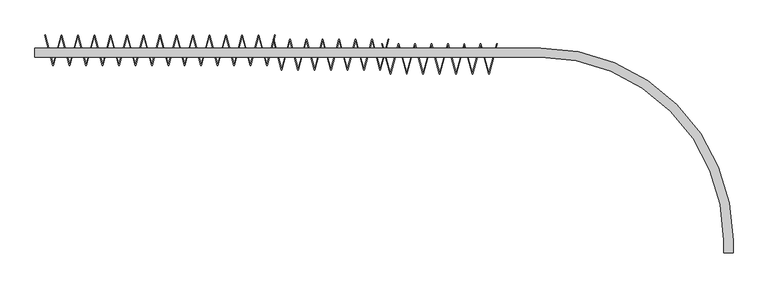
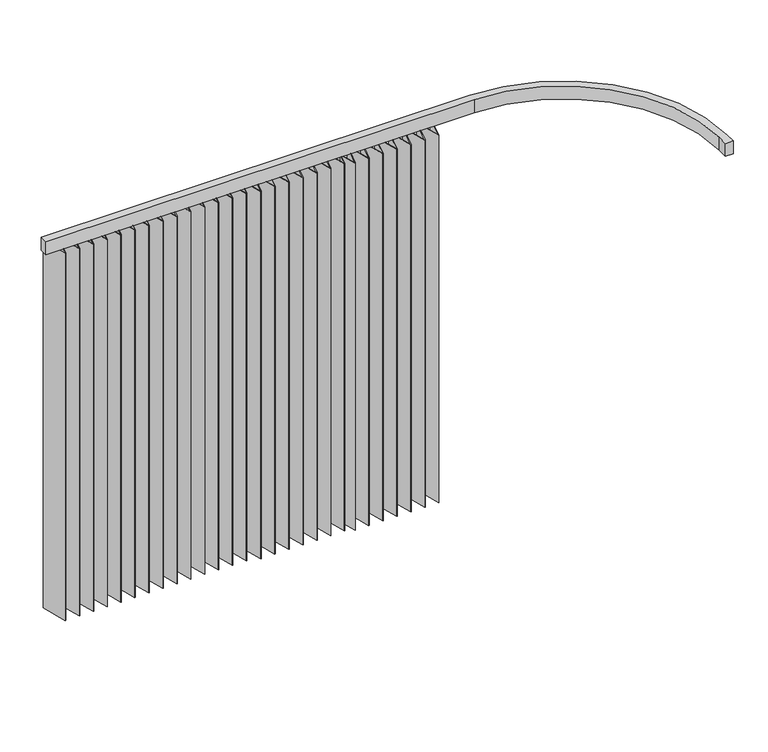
"""IFC4 building model written with IfcOpenShell, lengths in millimetres: furniture geometry, BIMHealth-Curtain_Bed-LOD2A-v1 : BHMS_Bed curtains."""

from ifc_helpers import new_model, si_unit, point, frame, frame_2d, origin, place, context, project, spatial, polyline, circle_curve, trimmed, segment, composite_curve, outline, extrude, source, transform, mapped, element, save


def furniture_a4beb444(model_context):
    return source(origin(), model_context, "Body", "SweptSolid", [
        extrude(outline(polyline([(130.945283, -76.2443007), (95.0822641, 57.5983079), (97.0141157, 58.115946), (131.9805592, -72.3805974), (166.8083019, 57.5983079), (168.8788542, 57.5983079), (203.7065969, -72.3805974), (238.5343396, 57.5983079), (240.604892, 57.5983079), (275.4326347, -72.3805974), (310.2603774, 57.5983079), (312.3309298, 57.5983079), (347.1586725, -72.3805974), (381.9864152, 57.5983079), (384.0569675, 57.5983079), (418.8847103, -72.3805974), (453.712453, 57.5983079), (455.7830053, 57.5983079), (490.610748, -72.3805974), (525.4384907, 57.5983079), (527.5090431, 57.5983079), (562.3367858, -72.3805974), (597.3032292, 58.115946), (599.2350809, 57.5983079), (563.372062, -76.2443007), (561.3015096, -76.2443007), (526.4737669, 53.7346046), (491.6460242, -76.2443007), (489.5754718, -76.2443007), (454.7477291, 53.7346046), (419.9199864, -76.2443007), (417.8494341, -76.2443007), (383.0216914, 53.7346046), (348.1939487, -76.2443007), (346.1233963, -76.2443007), (311.2956536, 53.7346046), (276.4679109, -76.2443007), (274.3973585, -76.2443007), (239.5696158, 53.7346046), (204.7418731, -76.2443007), (202.6713208, -76.2443007), (167.843578, 53.7346046), (133.0158353, -76.2443007), (130.945283, -76.2443007)])), frame((0.0, 0.0, 100.0), z_axis=(0.0, 0.0, 1.0), x_axis=(1.0, 0.0, 0.0)), (0.0, 0.0, 1.0), 2000.0),
        extrude(outline(polyline([(1128.1625419, -95.5463173), (1092.299523, 38.2962913), (1094.2313747, 38.8139294), (1129.1978181, -91.682614), (1164.0255608, 38.2962913), (1166.0961131, 38.2962913), (1200.9238559, -91.682614), (1235.7515986, 38.2962913), (1237.8221509, 38.2962913), (1272.6498936, -91.682614), (1307.4776363, 38.2962913), (1309.5481887, 38.2962913), (1344.3759314, -91.682614), (1379.2036741, 38.2962913), (1381.2742265, 38.2962913), (1416.1019692, -91.682614), (1450.9297119, 38.2962913), (1453.0002642, 38.2962913), (1487.8280069, -91.682614), (1522.6557497, 38.2962913), (1524.726302, 38.2962913), (1559.5540447, -91.682614), (1594.5204881, 38.8139294), (1596.4523398, 38.2962913), (1560.5893209, -95.5463173), (1558.5187685, -95.5463173), (1523.6910258, 34.432588), (1488.8632831, -95.5463173), (1486.7927308, -95.5463173), (1451.9649881, 34.432588), (1417.1372454, -95.5463173), (1415.066693, -95.5463173), (1380.2389503, 34.432588), (1345.4112076, -95.5463173), (1343.3406552, -95.5463173), (1308.5129125, 34.432588), (1273.6851698, -95.5463173), (1271.6146174, -95.5463173), (1236.7868747, 34.432588), (1201.959132, -95.5463173), (1199.8885797, -95.5463173), (1165.060837, 34.432588), (1130.2330943, -95.5463173), (1128.1625419, -95.5463173)])), frame((0.0, 0.0, 100.0), z_axis=(0.0, 0.0, 1.0), x_axis=(1.0, 0.0, 0.0)), (0.0, 0.0, 1.0), 2000.0),
        extrude(outline(polyline([(633.3005277, -76.2278008), (597.4375088, 57.6148078), (599.3693604, 58.1324459), (634.3358038, -72.3640975), (669.1635466, 57.6148078), (671.2340989, 57.6148078), (706.0618416, -72.3640975), (740.8895843, 57.6148078), (742.9601367, 57.6148078), (777.7878794, -72.3640975), (812.6156221, 57.6148078), (814.6861745, 57.6148078), (849.5139172, -72.3640975), (884.3416599, 57.6148078), (886.4122122, 57.6148078), (921.2399549, -72.3640975), (956.0676976, 57.6148078), (958.13825, 57.6148078), (992.9659927, -72.3640975), (1027.7937354, 57.6148078), (1029.8642878, 57.6148078), (1064.6920305, -72.3640975), (1099.6584739, 58.1324459), (1101.5903256, 57.6148078), (1065.7273067, -76.2278008), (1063.6567543, -76.2278008), (1028.8290116, 53.7511045), (994.0012689, -76.2278008), (991.9307165, -76.2278008), (957.1029738, 53.7511045), (922.2752311, -76.2278008), (920.2046788, -76.2278008), (885.3769361, 53.7511045), (850.5491933, -76.2278008), (848.478641, -76.2278008), (813.6508983, 53.7511045), (778.8231556, -76.2278008), (776.7526032, -76.2278008), (741.9248605, 53.7511045), (707.0971178, -76.2278008), (705.0265654, -76.2278008), (670.1988227, 53.7511045), (635.37108, -76.2278008), (633.3005277, -76.2278008)])), frame((0.0, 0.0, 100.0), z_axis=(0.0, 0.0, 1.0), x_axis=(1.0, 0.0, 0.0)), (0.0, 0.0, 1.0), 2000.0),
        extrude(outline(composite_curve([segment(polyline([(2260.0, -40.0), (52.0525168, -40.0), (52.0525168, 0.0), (2260.0, 0.0)]), True, "CONTINUOUS"), segment(trimmed(circle_curve(frame_2d((2260.0, -840.0)), 840.0), [point((2260.0, 0.0))], [point((3100.0, -840.0))], False, "CARTESIAN"), True, "CONTINUOUS"), segment(polyline([(3100.0, -840.0), (3100.0, -894.7276126), (3060.0, -894.7276126), (3060.0, -840.0)]), True, "CONTINUOUS"), segment(trimmed(circle_curve(frame_2d((2260.0, -840.0)), 800.0), [point((3060.0, -840.0))], [point((2260.0, -40.0))], True, "CARTESIAN"), True, "CONTINUOUS")], self_intersect=False)), frame((0.0, 0.0, 2100.0), z_axis=(0.0, 0.0, 1.0), x_axis=(1.0, 0.0, 0.0)), (0.0, 0.0, 1.0), 70.0),
        extrude(outline(polyline([(1602.5929369, -113.8426086), (1566.7299181, 20.0), (1568.6617697, 20.5176381), (1603.6282131, -109.9789053), (1638.4559558, 20.0), (1640.5265082, 20.0), (1675.3542509, -109.9789053), (1710.1819936, 20.0), (1712.252546, 20.0), (1747.0802887, -109.9789053), (1781.9080314, 20.0), (1783.9785837, 20.0), (1818.8063264, -109.9789053), (1853.6340692, 20.0), (1855.7046215, 20.0), (1890.5323642, -109.9789053), (1925.3601069, 20.0), (1927.4306593, 20.0), (1962.258402, -109.9789053), (1997.0861447, 20.0), (1999.1566971, 20.0), (2033.9844398, -109.9789053), (2068.9508832, 20.5176381), (2070.8827348, 20.0), (2035.0197159, -113.8426086), (2032.9491636, -113.8426086), (1998.1214209, 16.1362967), (1963.2936782, -113.8426086), (1961.2231258, -113.8426086), (1926.3953831, 16.1362967), (1891.5676404, -113.8426086), (1889.497088, -113.8426086), (1854.6693453, 16.1362967), (1819.8416026, -113.8426086), (1817.7710503, -113.8426086), (1782.9433076, 16.1362967), (1748.1155649, -113.8426086), (1746.0450125, -113.8426086), (1711.2172698, 16.1362967), (1676.3895271, -113.8426086), (1674.3189747, -113.8426086), (1639.491232, 16.1362967), (1604.6634893, -113.8426086), (1602.5929369, -113.8426086)])), frame((0.0, 0.0, 100.0), z_axis=(0.0, 0.0, 1.0), x_axis=(1.0, 0.0, 0.0)), (0.0, 0.0, 1.0), 2000.0),
    ])


if __name__ == "__main__":
    model = new_model("IFC4")
    model_context = context("Model", 3, world=origin())
    ifc_project = project(units=[si_unit("LENGTHUNIT", "METRE", prefix="MILLI")], contexts=[model_context])
    site = spatial("IfcSite", under=ifc_project)
    building = spatial("IfcBuilding", under=site)
    placement = place(None, origin())
    furniture_shape = furniture_a4beb444(model_context)
    element("IfcFurniture", 1, ObjectType="BIMHealth-Curtain_Bed-LOD2A-v1 : BHMS_Bed curtains", at=placement, inside=building, context=model_context, shape_type="MappedRepresentation", body=[
        mapped(furniture_shape, transform((0.0, 0.0, 0.0), x_axis=(1.0, 0.0, 0.0), y_axis=(0.0, 1.0, 0.0), z_axis=(0.0, 0.0, 1.0))),
    ])
    save(model, "model.ifc")
